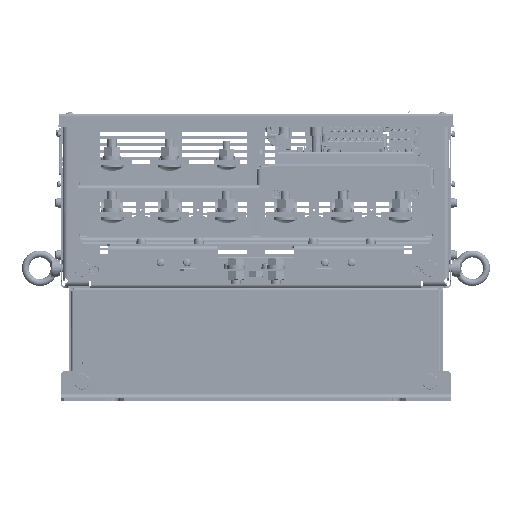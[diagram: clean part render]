
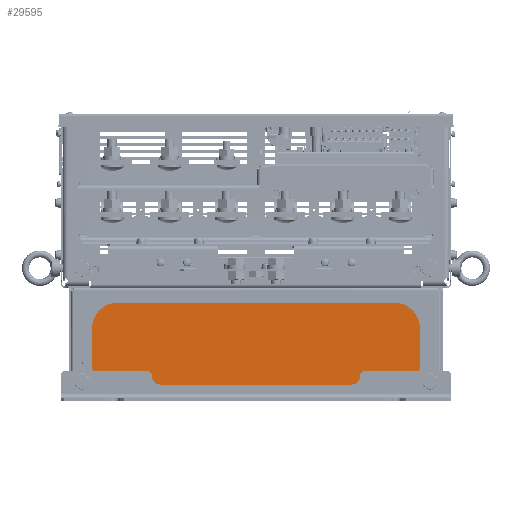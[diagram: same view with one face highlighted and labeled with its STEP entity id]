
A CAD part, front view. The second image highlights one B-rep face of the part: STEP entity #29595.
In plain terms, the highlighted planar face has unit normal (0, -1, 0).
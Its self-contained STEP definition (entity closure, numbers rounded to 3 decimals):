
#28831=DIRECTION('',(1.,0.,0.));
#28832=VECTOR('',#28831,393.24);
#28833=CARTESIAN_POINT('',(-196.656,-180.124,113.5));
#28834=LINE('',#28833,#28832);
#28835=DIRECTION('',(0.,0.,1.));
#28836=VECTOR('',#28835,107.);
#28837=CARTESIAN_POINT('',(-196.656,-180.124,6.5));
#28838=LINE('',#28837,#28836);
#28843=DIRECTION('',(0.,0.,1.));
#28844=VECTOR('',#28843,107.);
#28845=CARTESIAN_POINT('',(196.584,-180.124,6.5));
#28846=LINE('',#28845,#28844);
#28851=DIRECTION('',(1.,0.,0.));
#28852=VECTOR('',#28851,393.24);
#28853=CARTESIAN_POINT('',(-196.656,-180.124,6.5));
#28854=LINE('',#28853,#28852);
#28955=CARTESIAN_POINT('',(196.584,-180.124,113.5));
#28956=VERTEX_POINT('',#28955);
#28957=CARTESIAN_POINT('',(-196.656,-180.124,113.5));
#28958=VERTEX_POINT('',#28957);
#28963=CARTESIAN_POINT('',(-196.656,-180.124,6.5));
#28964=VERTEX_POINT('',#28963);
#28965=CARTESIAN_POINT('',(196.584,-180.124,6.5));
#28966=VERTEX_POINT('',#28965);
#29582=CARTESIAN_POINT('',(196.584,-180.124,113.5));
#29583=DIRECTION('',(0.,-1.,0.));
#29584=DIRECTION('',(-1.,0.,0.));
#29585=AXIS2_PLACEMENT_3D('',#29582,#29583,#29584);
#29586=PLANE('',#29585);
#29587=ORIENTED_EDGE('',*,*,#29069,.T.);
#29589=ORIENTED_EDGE('',*,*,#29588,.F.);
#29591=ORIENTED_EDGE('',*,*,#29590,.F.);
#29592=ORIENTED_EDGE('',*,*,#29574,.T.);
#29593=EDGE_LOOP('',(#29587,#29589,#29591,#29592));
#29594=FACE_OUTER_BOUND('',#29593,.F.);
#29069=EDGE_CURVE('',#28958,#28956,#28834,.T.);
#29574=EDGE_CURVE('',#28964,#28958,#28838,.T.);
#29588=EDGE_CURVE('',#28966,#28956,#28846,.T.);
#29590=EDGE_CURVE('',#28964,#28966,#28854,.T.);
#29595=ADVANCED_FACE('',(#29594),#29586,.T.);
